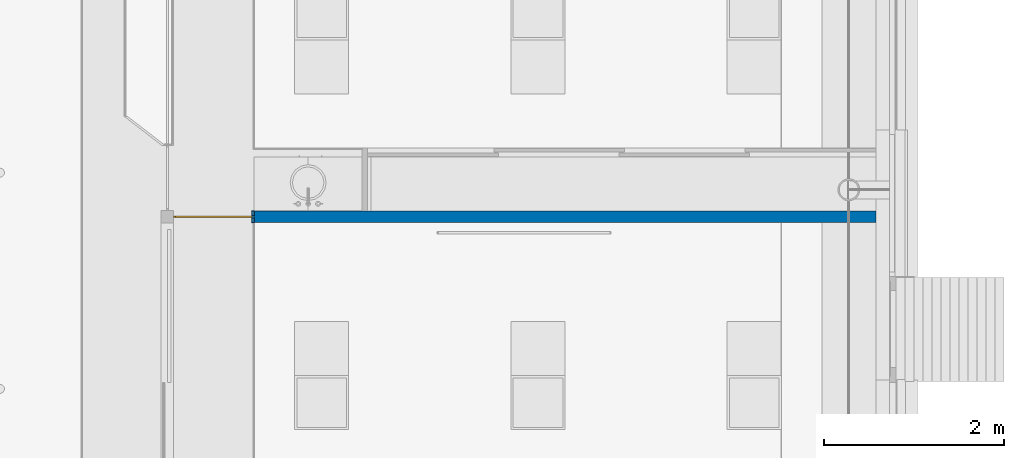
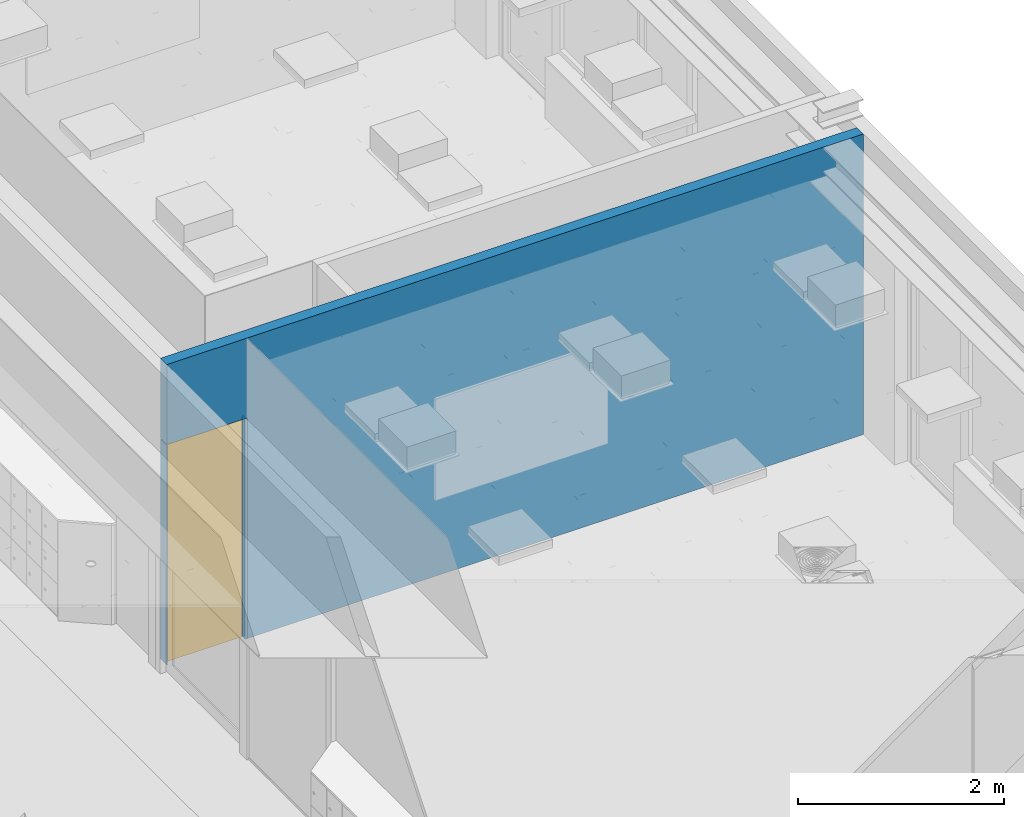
# One storey, part 50 of 347: 2 building element parts, 1 wall, 1 window, 2 openings, 1 element without a shape of its own.
"""IFC2X3 building model written with IfcOpenShell, lengths in millimetres."""

from ifc_helpers import new_model, entity, si_unit, converted_unit, derived_unit, money_unit, direction, frame, origin_with_axes, place, context, subcontext, project, spatial, open_shell, faceted_brep, surface_model, source, transform, mapped, material, type_object, type_shapes, element, fill, aggregate, save


model = new_model("IFC2X3")

# Units and contexts
model_context = context("Model", 3, precision=0.01, world=origin_with_axes(), true_north=direction((0.0, 1.0)))
plan_context = context("Plan", 3, precision=0.01, world=origin_with_axes(), true_north=direction((0.0, 1.0)))
body_context = subcontext(model_context, "Body", "Model", "MODEL_VIEW")
ifc_project = project(units=[si_unit("LENGTHUNIT", "METRE", prefix="MILLI"), si_unit("AREAUNIT", "SQUARE_METRE"), si_unit("VOLUMEUNIT", "CUBIC_METRE"), converted_unit("PLANEANGLEUNIT", "DEGREE", entity("IfcPlaneAngleMeasure", 0.0174532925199), si_unit("PLANEANGLEUNIT", "RADIAN"), dimensions=[0, 0, 0, 0, 0, 0, 0]), money_unit("EUR"), converted_unit("TIMEUNIT", "Year", entity("IfcTimeMeasure", 31556926.0), si_unit("TIMEUNIT", "SECOND"), dimensions=[0, 0, 1, 0, 0, 0, 0]), si_unit("MASSUNIT", "GRAM", prefix="KILO"), si_unit("THERMODYNAMICTEMPERATUREUNIT", "DEGREE_CELSIUS"), si_unit("LUMINOUSINTENSITYUNIT", "LUMEN"), si_unit("ENERGYUNIT", "JOULE", prefix="MEGA"), derived_unit("THERMALCONDUCTANCEUNIT", [(si_unit("POWERUNIT", "WATT"), 1), (si_unit("LENGTHUNIT", "METRE"), -1), (si_unit("THERMODYNAMICTEMPERATUREUNIT", "KELVIN"), -1)]), derived_unit("SPECIFICHEATCAPACITYUNIT", [(si_unit("ENERGYUNIT", "JOULE"), 1), (si_unit("MASSUNIT", "GRAM", prefix="KILO"), -1), (si_unit("THERMODYNAMICTEMPERATUREUNIT", "KELVIN"), -1)]), derived_unit("MASSDENSITYUNIT", [(si_unit("MASSUNIT", "GRAM", prefix="KILO"), 1), (si_unit("VOLUMEUNIT", "CUBIC_METRE"), -1)])], contexts=[model_context, plan_context])

# Site, building, storey
site_placement = place(None, origin_with_axes())
site = spatial("IfcSite", under=ifc_project, at=site_placement, Name="Site", CompositionType="ELEMENT")
building_placement = place(site_placement, origin_with_axes())
building = spatial("IfcBuilding", under=site, at=building_placement, Name="Naam gebouw", CompositionType="ELEMENT")
storey_placement = place(building_placement, origin_with_axes())
storey = spatial("IfcBuildingStorey", under=building, at=storey_placement, Name="begane grond", CompositionType="ELEMENT", Elevation=0.0)

# Wall, openings, windows, building element parts
ifc_material_1 = material(Name="ALG - LICHTE SCHEIDINGSWAND")
wall_type = type_object("IfcWallType", Name="ALG LSW 125 125", PredefinedType="NOTDEFINED")
wall_placement = place(storey_placement, frame((55875.0, 20050.0, 0.0), z_axis=(0.0, 0.0, 1.0), x_axis=(-1.0, 0.0, 0.0)))
wall = element("IfcWall", 1, at=wall_placement, inside=storey, type_object=wall_type, material=ifc_material_1, Name="22_GF 125 ECO DGS/2.75.2A", context=body_context, shape_type="Brep", body=[
    faceted_brep([(6900.0, -62.5, 0.0), (6900.0, 62.5, 0.0), (6900.0, 62.5, 2600.0), (6900.0, -62.5, 2600.0), (-5.65420990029e-05, 62.5, 0.0), (-5.65420990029e-05, -62.5, 0.0), (6900.00000034, 62.5, 2612.0), (-4.45888375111e-05, 62.5, 3560.0), (7800.0, 62.5, 3560.00000003), (7800.0, 62.5, 2612.0), (6900.0, -62.5, 2612.0), (7800.0, -62.5, 2612.0), (7800.0, -62.5, 3560.00000003), (-4.46458514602e-05, -62.5, 3560.0)], [[[0, 1, 2, 3]], [[4, 1, 0, 5]], [[6, 2, 1, 4, 7, 8, 9]], [[3, 2, 6, 10]], [[11, 12, 13, 5, 0, 3, 10]], [[13, 7, 4, 5]], [[8, 7, 13, 12]], [[11, 9, 8, 12]], [[11, 10, 6, 9]]]),
    faceted_brep([(7800.0, 62.5, 2600.0), (7793.0, 62.5, 2600.0), (7793.0, -62.5, 2600.0), (7800.0, -62.5, 2600.0), (7800.0, 62.5, 0.0), (7793.0, 62.5, 0.0), (7793.0, -62.5, 0.0), (7800.0, -62.5, 0.0)], [[[0, 1, 2, 3]], [[4, 5, 1, 0]], [[2, 1, 5, 6]], [[2, 6, 7, 3]], [[0, 3, 7, 4]], [[6, 5, 4, 7]]]),
])
opening_1_placement = place(wall_placement, frame((7346.5, 0.0, 0.0), z_axis=(0.0, 0.0, 1.0), x_axis=(1.0, 0.0, 0.0)))
opening_1 = element("IfcOpeningElement", 2, at=opening_1_placement, cuts=wall, Name="32_10.02", context=body_context, shape_type="Brep", body=[
    faceted_brep([(-446.5, 187.5, 2600.0), (-446.5, 187.5, 0.0), (-446.5, -10.0, 0.0), (-446.5, -10.0, 2600.0), (446.5, 187.5, 2600.0), (446.5, 187.5, 0.0), (446.5, -10.0, 0.0), (446.5, -10.0, 2600.0)], [[[0, 1, 2, 3]], [[0, 4, 5, 1]], [[1, 5, 6, 2]], [[3, 2, 6, 7]], [[4, 0, 3, 7]], [[5, 4, 7, 6]]]),
    faceted_brep([(-446.5, -187.5, 0.0), (-446.5, -187.5, 2600.0), (-446.5, -10.0, 2600.0), (-446.5, -10.0, 0.0), (446.5, -187.5, 0.0), (446.5, -187.5, 2600.0), (446.5, -10.0, 2600.0), (446.5, -10.0, 0.0)], [[[0, 1, 2, 3]], [[0, 4, 5, 1]], [[1, 5, 6, 2]], [[3, 2, 6, 7]], [[4, 0, 3, 7]], [[5, 4, 7, 6]]]),
])
opening_2_placement = place(wall_placement, frame((6912.5, 0.0, 0.0), z_axis=(0.0, 0.0, 1.0), x_axis=(1.0, 0.0, 0.0)))
opening_2 = element("IfcOpeningElement", 3, at=opening_2_placement, cuts=wall, Name="31_-", context=body_context, shape_type="Brep", body=[
    faceted_brep([(12.5, 187.5, 0.0), (12.5, 187.5, 2600.0), (12.5, 12.5, 2600.0), (12.5, 12.5, 0.0), (-12.5, 187.5, 0.0), (-12.5, 187.5, 2600.0), (-12.5, 12.5, 2600.0), (-12.5, 12.5, 0.0)], [[[0, 1, 2, 3]], [[0, 4, 5, 1]], [[1, 5, 6, 2]], [[3, 2, 6, 7]], [[4, 0, 3, 7]], [[5, 4, 7, 6]]]),
    faceted_brep([(12.5, -162.5, 2600.0), (12.5, -162.5, 0.0), (12.5, 12.5, 0.0), (12.5, 12.5, 2600.0), (-12.5, -162.5, 2600.0), (-12.5, -162.5, 0.0), (-12.5, 12.5, 0.0), (-12.5, 12.5, 2600.0)], [[[0, 1, 2, 3]], [[0, 4, 5, 1]], [[1, 5, 6, 2]], [[3, 2, 6, 7]], [[4, 0, 3, 7]], [[5, 4, 7, 6]]]),
])
window_style_1 = type_object("IfcWindowStyle", Name="R1 25", ConstructionType="NOTDEFINED", OperationType="SINGLE_PANEL", ParameterTakesPrecedence=False, Sizeable=False)
shared_shape_1 = source(origin_with_axes(), body_context, "Body", "SurfaceModel", [
    faceted_brep([(-426.5, -20.0, 2580.0), (-426.5, 0.0, 2580.0), (-446.5, 0.0, 2580.0), (-446.5, -20.0, 2580.0), (-426.5, -20.0, 20.0), (-426.5, 0.0, 20.0), (-446.5, 0.0, 20.0), (-446.5, -20.0, 20.0)], [[[0, 1, 2, 3]], [[4, 5, 1, 0]], [[1, 5, 6, 2]], [[3, 2, 6, 7]], [[0, 3, 7, 4]], [[7, 6, 5, 4]]]),
    faceted_brep([(426.5, -20.0, 20.0), (426.5, 0.0, 20.0), (446.5, 0.0, 20.0), (446.5, -20.0, 20.0), (426.5, -20.0, 2580.0), (426.5, 0.0, 2580.0), (446.5, 0.0, 2580.0), (446.5, -20.0, 2580.0)], [[[0, 1, 2, 3]], [[4, 5, 1, 0]], [[1, 5, 6, 2]], [[3, 2, 6, 7]], [[0, 3, 7, 4]], [[7, 6, 5, 4]]]),
    faceted_brep([(-426.5, -20.0, 20.0), (-426.5, 0.0, 20.0), (-446.5, 0.0, 20.0), (-446.5, -20.0, 20.0), (426.5, -20.0, 20.0), (426.5, 0.0, 20.0), (446.5, 0.0, 20.0), (446.5, 0.0, 0.0), (-446.5, 0.0, 0.0), (-446.5, -20.0, 0.0), (446.5, -20.0, 0.0), (446.5, -20.0, 20.0)], [[[0, 1, 2, 3]], [[4, 5, 1, 0]], [[1, 5, 6, 7, 8, 2]], [[3, 2, 8, 9]], [[0, 3, 9, 10, 11, 4]], [[11, 6, 5, 4]], [[10, 7, 6, 11]], [[9, 8, 7, 10]]]),
    faceted_brep([(426.5, -20.0, 2580.0), (426.5, 0.0, 2580.0), (446.5, 0.0, 2580.0), (446.5, -20.0, 2580.0), (-426.5, -20.0, 2580.0), (-426.5, 0.0, 2580.0), (-446.5, 0.0, 2580.0), (-446.5, 0.0, 2600.0), (446.5, 0.0, 2600.0), (446.5, -20.0, 2600.0), (-446.5, -20.0, 2600.0), (-446.5, -20.0, 2580.0)], [[[0, 1, 2, 3]], [[4, 5, 1, 0]], [[1, 5, 6, 7, 8, 2]], [[3, 2, 8, 9]], [[0, 3, 9, 10, 11, 4]], [[11, 6, 5, 4]], [[10, 7, 6, 11]], [[9, 8, 7, 10]]]),
    surface_model("IfcShellBasedSurfaceModel", [(-426.5, -20.0, 20.0), (426.5, -20.0, 20.0), (426.5, -20.0, 2580.0), (-426.5, -20.0, 2580.0)], [open_shell([[[0, 1, 2, 3]]])]),
    surface_model("IfcShellBasedSurfaceModel", [(-426.5, 0.0, 20.0), (-426.5, 0.0, 2580.0), (426.5, 0.0, 2580.0), (426.5, 0.0, 20.0)], [open_shell([[[0, 1, 2, 3]]])]),
])
type_shapes(window_style_1, [shared_shape_1])
window_1_placement = place(opening_1_placement, frame((446.5, 0.0, 0.0), z_axis=(0.0, 0.0, 1.0), x_axis=(-1.0, 0.0, 0.0)))
window_1 = element("IfcWindow", 4, at=window_1_placement, inside=storey, type_object=window_style_1, Name="32_10.02", ObjectType="WINDOW", OverallHeight=2600.0, OverallWidth=893.0, context=body_context, shape_type="MappedRepresentation", body=[
    mapped(shared_shape_1, transform((446.5, 10.0, 0.0))),
])
fill(opening_1, window_1)
window_style_2 = type_object("IfcWindowStyle", Name="32 glaslatten 125mm wand", ConstructionType="NOTDEFINED", OperationType="NOTDEFINED", ParameterTakesPrecedence=False, Sizeable=False)
window_2_placement = place(opening_2_placement, frame((-12.5, 0.0, 0.0), z_axis=(0.0, 0.0, 1.0), x_axis=(1.0, 0.0, 0.0)))
window_2 = element("IfcWindow", 5, at=window_2_placement, inside=storey, type_object=window_style_2, Name="31_-", ObjectType="WINDOW", OverallHeight=2600.0, OverallWidth=25.0)
fill(opening_2, window_2)
ifc_material_2 = material(Name="32 Hout binnenkozijn")
shared_shape_2 = source(origin_with_axes(), body_context, "Body", "Brep", [
    faceted_brep([(-12.5, -77.0, 2600.0), (-12.5, -77.0, 0.0), (12.5, -77.0, 0.0), (12.5, -77.0, 2600.0), (-12.5, -25.0, 2600.0), (-12.5, -25.0, 0.0), (12.5, -25.0, 0.0), (12.5, -25.0, 2600.0)], [[[0, 1, 2, 3]], [[4, 5, 1, 0]], [[1, 5, 6, 2]], [[3, 2, 6, 7]], [[0, 3, 7, 4]], [[7, 6, 5, 4]]]),
    faceted_brep([(-12.5, 0.0, 2600.0), (-12.5, 0.0, 0.0), (12.5, 0.0, 0.0), (12.5, 0.0, 2600.0), (-12.5, 52.0, 2600.0), (-12.5, 52.0, 0.0), (12.5, 52.0, 0.0), (12.5, 52.0, 2600.0)], [[[0, 1, 2, 3]], [[4, 5, 1, 0]], [[1, 5, 6, 2]], [[3, 2, 6, 7]], [[0, 3, 7, 4]], [[7, 6, 5, 4]]]),
])
building_element_part_1_placement = place(window_2_placement, origin_with_axes())
building_element_part_1 = element("IfcBuildingElementPart", 6, at=building_element_part_1_placement, material=ifc_material_2, Name="32 Hout binnenkozijn", context=body_context, shape_type="MappedRepresentation", body=[
    mapped(shared_shape_2, transform((12.5, 12.5, 0.0))),
])
ifc_material_3 = material(Name="Membraan - rubber")
shared_shape_3 = source(origin_with_axes(), body_context, "Body", "Brep", [
    faceted_brep([(-12.5, -25.0, 2600.0), (-12.5, -25.0, 0.0), (12.5, -25.0, 0.0), (12.5, -25.0, 2600.0), (-12.5, 0.0, 2600.0), (-12.5, 0.0, 0.0), (12.5, 0.0, 0.0), (12.5, 0.0, 2600.0)], [[[0, 1, 2, 3]], [[4, 5, 1, 0]], [[1, 5, 6, 2]], [[3, 2, 6, 7]], [[0, 3, 7, 4]], [[7, 6, 5, 4]]]),
])
building_element_part_2_placement = place(window_2_placement, origin_with_axes())
building_element_part_2 = element("IfcBuildingElementPart", 7, at=building_element_part_2_placement, material=ifc_material_3, Name="Membraan - rubber", context=body_context, shape_type="MappedRepresentation", body=[
    mapped(shared_shape_3, transform((12.5, 12.5, 0.0))),
])
aggregate(window_2, [building_element_part_1, building_element_part_2])

save(model, "model.ifc")
